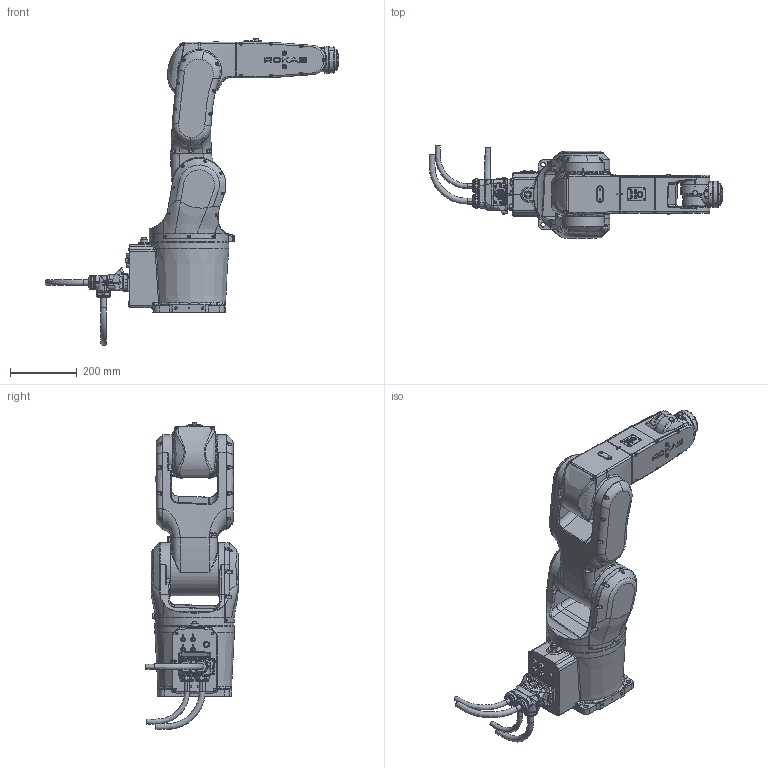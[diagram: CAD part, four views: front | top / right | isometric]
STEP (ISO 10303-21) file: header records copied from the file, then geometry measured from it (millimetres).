
FILE_DESCRIPTION(/* description */ (''),/* implementation_level */ '2;1');
FILE_NAME(/* name */ 'XB7s-R707 简化模型(20200421).stp',/* time_stamp */ '2020-07-27T14:56:32+08:00',/* author */ (''),/* organization */ (''),/* preprocessor_version */ 'ST-DEVELOPER v16',/* originating_system */ 'SIEMENS PLM Software NX 10.0',/* authorisation */ '');
FILE_SCHEMA (('CONFIG_CONTROL_DESIGN'));
Products named in the file (8): XB7s-R707-6; XB7s-R707-5; XB7s-R707-4; XB7s-R707-3; XB7s-R707-2; XB7s-R707-1; XB7s-R707 base; XB7s-R707_stp
Assembly tree (7 placements, depth 2):
  XB7s-R707_stp
    XB7s-R707 base
    XB7s-R707-1
    XB7s-R707-2
    XB7s-R707-3
    XB7s-R707-4
    XB7s-R707-5
    XB7s-R707-6
Bounding box: 879.15 x 275.88 x 918.55 mm (x, y, z)
Volume: 30616212.5 mm3; surface area: 1399186.6 mm2
Topology: 9 solids, 17 shells, 3725 faces, 9069 edges, 5500 vertices
Faces by surface type: plane 1195, cylinder 921, bspline 838, torus 265, cone 229, extrusion 209, sphere 68
Full cylindrical faces by diameter (mm): 3.3 x8, 4.2 x12, 4.826 x1, 5 x3, 5.5 x83, 6 x2, 7 x20, 8.5 x10, 9.5 x3, 10 x4, 10.701 x2, 13 x1, 13.5 x4, 14 x1, 15 x4, 18.5 x1, 20 x1, 22 x1, 40 x1, 50 x2, 55 x2, 59 x2, 65 x1, 68 x1, 70 x2, 86 x2, 88 x1, 100 x2, 119 x1, 120 x1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
Entity records: 166297 total; most frequent: CARTESIAN_POINT 89212, ORIENTED_EDGE 17020, DIRECTION 13495, EDGE_CURVE 8510, AXIS2_PLACEMENT_3D 5459, VERTEX_POINT 5344, EDGE_LOOP 4228, ADVANCED_FACE 3717
